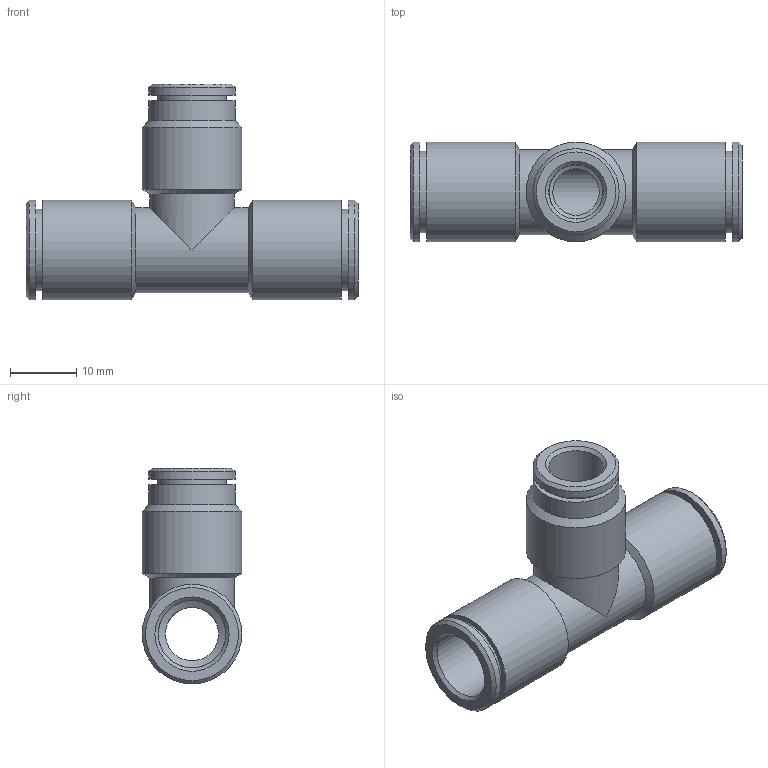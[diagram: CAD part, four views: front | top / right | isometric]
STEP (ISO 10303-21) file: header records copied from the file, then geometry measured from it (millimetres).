
FILE_DESCRIPTION(('Bauteilbeschreibung','HiCAD-Model','HiCAD-STEP-TRANSLATION','Bauteilbeschreibung'),'2;1');
FILE_NAME('B:/ABGLEICH/ZEICHNUNGEN/STEP FÜR INTERNET/STEP/200510_IPSO_05_10_8.STP','2011-07-26T08:36:54+00:00',('Konstrukteur'),('Konstrukteur Firma GmbH'),' HiCAD neXt 2008, Step 3.1.1401.2J ','HiCAD neXt 2008','confidential');
FILE_SCHEMA(('AUTOMOTIVE_DESIGN { 1 2 10303 214 0 1 1 1 }'));
Length unit declared in the file: millimetre
Products named in the file (5): A00510_IPSO_05_10_8; DR8_4; DR10_1; DR1001; R200510
Assembly tree (4 placements, depth 2):
  A00510_IPSO_05_10_8
    DR8_4
    DR10_1
    DR1001
    R200510
Bounding box: 50 x 15 x 32.5 mm (x, y, z)
Volume: 5116.5 mm3; surface area: 7793.6 mm2
Topology: 4 solids, 4 shells, 76 faces, 147 edges, 87 vertices
Faces by surface type: cylinder 31, cone 28, plane 17
Full cylindrical faces by diameter (mm): 7 x1, 8 x1, 8.1 x1, 8.2 x1, 9.1 x1, 10.1 x2, 10.2 x2, 10.4 x1, 10.5 x1, 11 x1, 11.3 x2, 11.6 x2, 12.3 x2, 12.7 x2, 12.8 x2, 13 x2, 13.2 x2, 15 x5
Entity records: 2792 total; most frequent: CARTESIAN_POINT 951, DIRECTION 322, AXIS2_PLACEMENT_3D 161, ORIENTED_EDGE 156, EDGE_LOOP 154, COLOUR_RGB 81, PRESENTATION_STYLE_ASSIGNMENT 81, EDGE_CURVE 78
